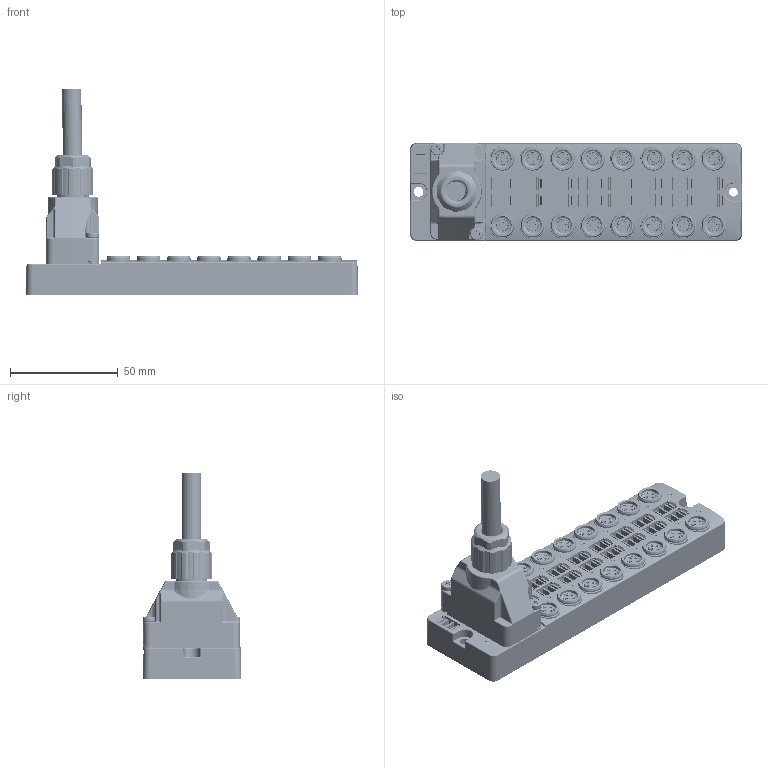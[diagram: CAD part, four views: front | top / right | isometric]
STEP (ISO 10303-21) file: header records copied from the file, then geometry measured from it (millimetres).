
FILE_DESCRIPTION (( 'STEP AP203' ), '1' );
FILE_NAME ('23PT16.stp', '2023-07-14T11:32:29', ( '' ), ( '' ), 'SwSTEP 2.0', 'SolidWorks 2016', '' );
FILE_SCHEMA (( 'CONFIG_CONTROL_DESIGN' ));
Products named in the file (3): 23PT16; 24D001
Assembly tree (2 placements, depth 2):
  23PT16
    24D001
    23PT16
Bounding box: 154.01 x 45.59 x 95.68 mm (x, y, z)
Volume: 138868.9 mm3; surface area: 49125.8 mm2
Topology: 2 solids, 50 shells, 3502 faces, 8874 edges, 5702 vertices
Faces by surface type: plane 1579, cylinder 1136, cone 469, bspline 294, torus 16, sphere 8
Entity records: 186581 total; most frequent: CARTESIAN_POINT 106153, ORIENTED_EDGE 17736, DIRECTION 14761, EDGE_CURVE 8868, VERTEX_POINT 5702, AXIS2_PLACEMENT_3D 5182, LINE 4397, VECTOR 4397
